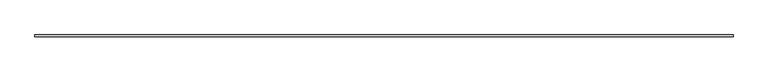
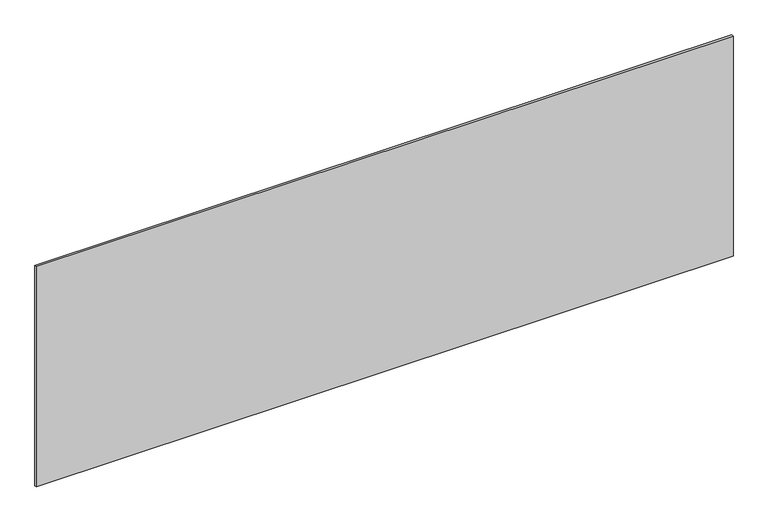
"""IFC4 building model written with IfcOpenShell, lengths in millimetres: plate geometry, システム パネル : 標準."""

from ifc_helpers import new_model, si_unit, origin, origin_with_axes, place, context, project, spatial, polyline, outline, extrude, source, transform, mapped, element, save


def plate_a0001f2a(model_context):
    return source(origin(), model_context, "Body", "SweptSolid", [
        extrude(outline(polyline([(1697.5, -5.0), (-1697.5, -5.0), (-1697.5, 5.0), (1697.5, 5.0), (1697.5, -5.0)])), origin_with_axes(), (0.0, 0.0, 1.0), 1134.4393141),
    ])


if __name__ == "__main__":
    model = new_model("IFC4")
    model_context = context("Model", 3, world=origin())
    ifc_project = project(units=[si_unit("LENGTHUNIT", "METRE", prefix="MILLI")], contexts=[model_context])
    site = spatial("IfcSite", under=ifc_project)
    building = spatial("IfcBuilding", under=site)
    placement = place(None, origin())
    plate_shape = plate_a0001f2a(model_context)
    element("IfcPlate", 1, ObjectType="システム パネル : 標準", at=placement, inside=building, context=model_context, shape_type="MappedRepresentation", body=[
        mapped(plate_shape, transform((0.0, 0.0, 0.0), x_axis=(1.0, 0.0, 0.0), y_axis=(0.0, 1.0, 0.0), z_axis=(0.0, 0.0, 1.0))),
    ])
    save(model, "model.ifc")
